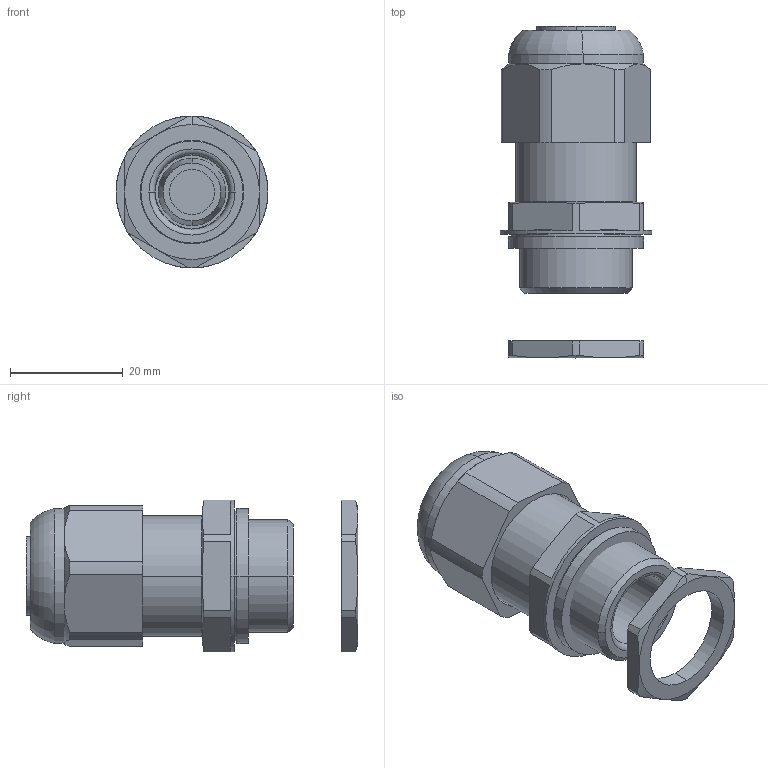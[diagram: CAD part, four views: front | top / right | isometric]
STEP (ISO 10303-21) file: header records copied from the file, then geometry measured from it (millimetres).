
FILE_DESCRIPTION (( 'STEP AP203' ), '1' );
FILE_NAME ('8161-_M20-13_m_Mutter_m_Stopfen.STEP', '2015-04-02T06:51:33', ( '' ), ( '' ), 'SwSTEP 2.0', 'SolidWorks 2015', '' );
FILE_SCHEMA (( 'CONFIG_CONTROL_DESIGN' ));
Length unit declared in the file: millimetre
Products named in the file (1): 8161-_M20-13_m_Mutter_m_Stopfen
Bounding box: 27 x 58.97 x 27 mm (x, y, z)
Volume: 14483 mm3; surface area: 13536 mm2
Topology: 6 solids, 6 shells, 428 faces, 1108 edges, 680 vertices
Faces by surface type: cone 127, plane 116, cylinder 112, torus 45, bspline 28
Entity records: 13282 total; most frequent: CARTESIAN_POINT 2834, DIRECTION 2256, ORIENTED_EDGE 2188, EDGE_CURVE 1094, AXIS2_PLACEMENT_3D 884, VERTEX_POINT 680, VECTOR 488, LINE 488
